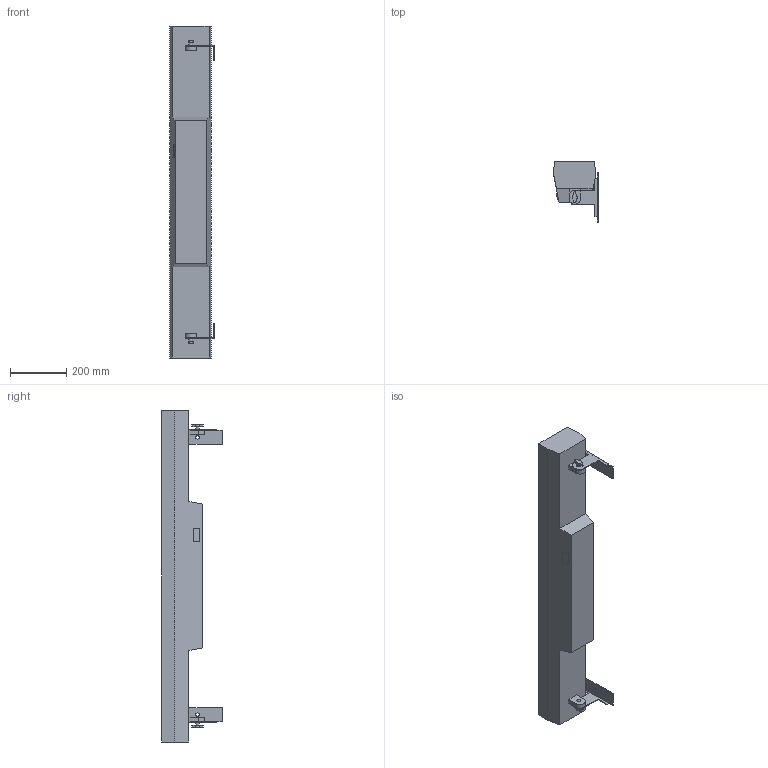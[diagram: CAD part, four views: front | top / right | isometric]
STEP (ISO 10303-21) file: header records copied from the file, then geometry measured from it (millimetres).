
FILE_DESCRIPTION(/* description */ (''),/* implementation_level */ '2;1');
FILE_NAME(/* name */ 'COLORado Solo Bar 4_90_3D.stp',/* time_stamp */ '2024-04-30T10:41:15-04:00',/* author */ ('dgooch'),/* organization */ (''),/* preprocessor_version */ 'ST-DEVELOPER v20',/* originating_system */ 'Autodesk Inventor 2024',/* authorisation */ '');
FILE_SCHEMA (('AUTOMOTIVE_DESIGN { 1 0 10303 214 3 1 1 }'));
Length unit declared in the file: millimetre
Products named in the file (4): COLORado Solo Bar 4_0; Bracket_1; Bracket 2; Main
Assembly tree (3 placements, depth 2):
  COLORado Solo Bar 4_0
    Bracket_1
    Bracket 2
    Main
Bounding box: 159.02 x 217.39 x 1184.1 mm (x, y, z)
Volume: 19308784.4 mm3; surface area: 733133.4 mm2
Topology: 3 solids, 3 shells, 98 faces, 236 edges, 156 vertices
Faces by surface type: plane 76, cylinder 14, cone 4, bspline 4
Full cylindrical faces by diameter (mm): 13 x2, 14 x6
Entity records: 6010 total; most frequent: CARTESIAN_POINT 3539, ORIENTED_EDGE 472, DIRECTION 458, EDGE_CURVE 236, LINE 184, VECTOR 184, VERTEX_POINT 156, AXIS2_PLACEMENT_3D 137
